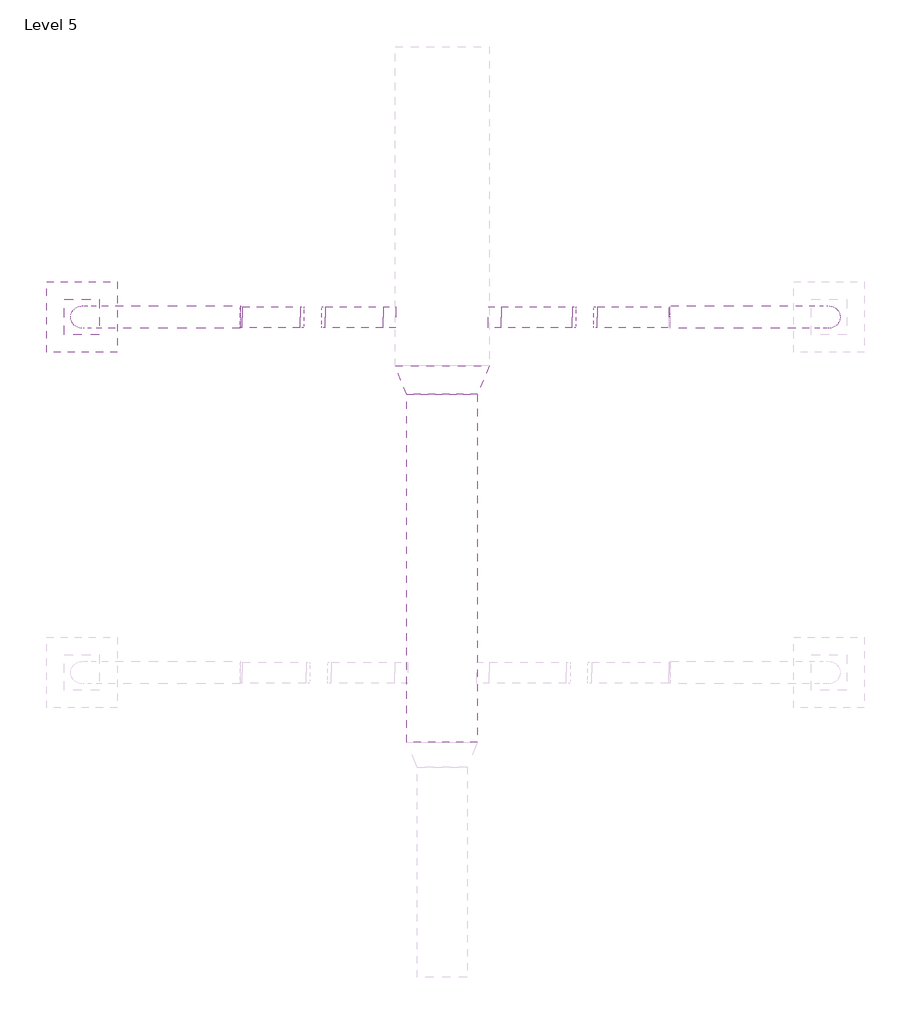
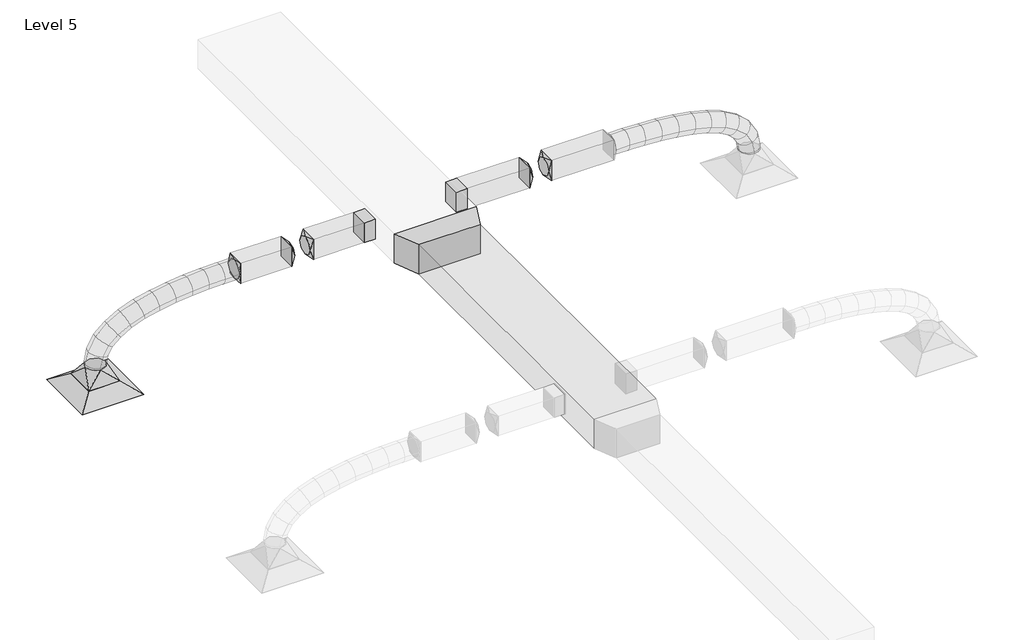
# One storey, part 4 of 7: 9 duct fittings, 7 duct segments, 1 air terminal.
"""IFC4 building model written with IfcOpenShell, lengths in millimetres."""

from ifc_helpers import new_model, si_unit, frame, origin, place, context, project, spatial, polyline, circle_curve, ellipse_curve, outline, extrude, transform, mapped, element, save
from ifc_brep_helpers import plane_surface, cylinder_surface, advanced_brep
from components import extract_grille_600_x_600_face_300_x_300_connection_8a0e72a1, rectangular_takeoff_standard_32a156ed, rectangular_transition_angle_45_degree_cbafa6ef, rectangular_to_round_transition_angle_45_degree_6939472c, rectangular_to_round_transition_angle_45_degree_460bb45a, rectangular_to_round_transition_angle_45_degree_ccfbbdd0

model = new_model("IFC4")

# Units and contexts
model_context = context("Model", 3, world=origin())
ifc_project = project(units=[si_unit("LENGTHUNIT", "METRE", prefix="MILLI")], contexts=[model_context])

# Site, building, storey
site = spatial("IfcSite", under=ifc_project)
building = spatial("IfcBuilding", under=site)
storey = spatial("IfcBuildingStorey", under=building, Name="Level 5", Elevation=19507.2)

# Air terminal
placement = place(None, origin())
extract_grille_600_x_600_face_300_x_300_connection_shape = extract_grille_600_x_600_face_300_x_300_connection_8a0e72a1(model_context)
element("IfcAirTerminal", 1, ObjectType="Extract Grille : 600 x 600 Face 300 x 300 Connection", at=placement, inside=storey, context=model_context, shape_type="MappedRepresentation", body=[
    mapped(extract_grille_600_x_600_face_300_x_300_connection_shape, transform((-13951.4273397, 10922.574671, 21507.2), x_axis=(1.0, 0.0, 0.0), y_axis=(0.0, 1.0, 0.0), z_axis=(0.0, 0.0, 1.0))),
])

# Duct fittings
rectangular_takeoff_standard_shape = rectangular_takeoff_standard_32a156ed(model_context)
element("IfcDuctFitting", 2, ObjectType="Rectangular Takeoff : Standard", at=placement, inside=storey, context=model_context, shape_type="MappedRepresentation", body=[
    mapped(rectangular_takeoff_standard_shape, transform((-11288.399049, 10922.574671, 22250.4), x_axis=(-1.0, 0.0, 0.0), y_axis=(0.0, -1.0, 0.0), z_axis=(0.0, 0.0, 1.0))),
])
element("IfcDuctFitting", 3, ObjectType="Rectangular Takeoff : Standard", at=placement, inside=storey, context=model_context, shape_type="MappedRepresentation", body=[
    mapped(rectangular_takeoff_standard_shape, transform((-10488.399049, 10922.574671, 22250.4), x_axis=(1.0, 0.0, 0.0), y_axis=(0.0, -1.0, 0.0), z_axis=(0.0, 0.0, -1.0))),
])
rectangular_transition_angle_45_degree_shape = rectangular_transition_angle_45_degree_cbafa6ef(model_context)
element("IfcDuctFitting", 4, ObjectType="Rectangular Transition - Angle : 45 Degree", at=placement, inside=storey, context=model_context, shape_type="MappedRepresentation", body=[
    mapped(rectangular_transition_angle_45_degree_shape, transform((-10888.399049, 10266.0044172, 22250.4), x_axis=(0.0, 1.0, 0.0), y_axis=(-1.0, 0.0, 0.0), z_axis=(0.0, 0.0, 1.0))),
])
rectangular_to_round_transition_angle_45_degree_shape = rectangular_to_round_transition_angle_45_degree_6939472c(model_context)
element("IfcDuctFitting", 5, ObjectType="Rectangular to Round Transition - Angle : 45 Degree", at=placement, inside=storey, context=model_context, shape_type="MappedRepresentation", body=[
    mapped(rectangular_to_round_transition_angle_45_degree_shape, transform((-13951.4273397, 10922.574671, 21607.2), x_axis=(0.0, 0.0, 1.0), y_axis=(-1.0, 0.0, 0.0), z_axis=(0.0, -1.0, 0.0))),
])
rectangular_to_round_transition_angle_45_degree_2_shape = rectangular_to_round_transition_angle_45_degree_460bb45a(model_context)
element("IfcDuctFitting", 6, ObjectType="Rectangular to Round Transition - Angle : 45 Degree", at=placement, inside=storey, context=model_context, shape_type="MappedRepresentation", body=[
    mapped(rectangular_to_round_transition_angle_45_degree_2_shape, transform((-12587.2796335, 10922.574671, 22250.4), x_axis=(-1.0, 0.0, 0.0), y_axis=(0.0, -1.0, 0.0), z_axis=(0.0, 0.0, 1.0))),
])
rectangular_to_round_transition_angle_45_degree_3_shape = rectangular_to_round_transition_angle_45_degree_ccfbbdd0(model_context)
element("IfcDuctFitting", 7, ObjectType="Rectangular to Round Transition - Angle : 45 Degree", at=placement, inside=storey, context=model_context, shape_type="MappedRepresentation", body=[
    mapped(rectangular_to_round_transition_angle_45_degree_3_shape, transform((-11881.778829, 10922.574671, 22250.4), x_axis=(-1.0, 0.0, 0.0), y_axis=(0.0, -1.0, 0.0), z_axis=(0.0, 0.0, 1.0))),
])
element("IfcDuctFitting", 8, ObjectType="Rectangular to Round Transition - Angle : 45 Degree", at=placement, inside=storey, context=model_context, shape_type="MappedRepresentation", body=[
    mapped(rectangular_to_round_transition_angle_45_degree_3_shape, transform((-12095.4998535, 10922.574671, 22250.4), x_axis=(1.0, 0.0, 0.0), y_axis=(0.0, 1.0, 0.0), z_axis=(0.0, 0.0, 1.0))),
])
element("IfcDuctFitting", 9, ObjectType="Rectangular to Round Transition - Angle : 45 Degree", at=placement, inside=storey, context=model_context, shape_type="MappedRepresentation", body=[
    mapped(rectangular_to_round_transition_angle_45_degree_3_shape, transform((-9782.0160617, 10922.574671, 22250.4), x_axis=(1.0, 0.0, 0.0), y_axis=(0.0, 1.0, 0.0), z_axis=(0.0, 0.0, 1.0))),
])
element("IfcDuctFitting", 10, ObjectType="Rectangular to Round Transition - Angle : 45 Degree", at=placement, inside=storey, context=model_context, shape_type="MappedRepresentation", body=[
    mapped(rectangular_to_round_transition_angle_45_degree_3_shape, transform((-9568.2950373, 10922.574671, 22250.4), x_axis=(-1.0, 0.0, 0.0), y_axis=(0.0, -1.0, 0.0), z_axis=(0.0, 0.0, 1.0))),
])

# Duct segments
element("IfcDuctSegment", 11, ObjectType="Flex - Round", at=placement, inside=storey, context=model_context, shape_type="AdvancedBrep", body=[
    advanced_brep(
    [(-13856.600673, 10922.574671, 21740.4002096), (-13951.4273397, 10827.7480044, 21740.4002096), (-14046.2540063, 10922.574671, 21740.4002096), (-13951.4273397, 11017.4013377, 21740.4002096), (-13856.600673, 10922.574671, 21747.1257674), (-13951.4273397, 10827.7480044, 21756.3980144), (-14046.2540063, 10922.574671, 21765.6702615), (-13951.4273397, 11017.4013377, 21756.3980144), (-13840.9042421, 10922.574671, 21826.6215495), (-13930.8630542, 10827.7480044, 21860.5474205), (-14020.8218663, 10922.574671, 21894.4732915), (-13930.8630542, 11017.4013377, 21860.5474205), (-13798.3595041, 10922.574671, 21899.8493536), (-13872.9403898, 10827.7480044, 21960.2436396), (-13947.5212755, 10922.574671, 22020.6379256), (-13872.9403898, 11017.4013377, 21960.2436396), (-13727.6906802, 10922.574671, 21963.8298786), (-13783.3146346, 10827.7480044, 22041.3869579), (-13838.9385891, 10922.574671, 22118.9440371), (-13783.3146346, 11017.4013377, 22041.3869579), (-13628.0298936, 10922.574671, 22019.391198), (-13667.6410769, 10827.7480044, 22105.8754664), (-13707.2522603, 10922.574671, 22192.3597348), (-13667.6410769, 11017.4013377, 22105.8754664), (-13503.9528951, 10922.574671, 22064.7410131), (-13531.5750048, 10827.7480044, 22155.6072562), (-13559.1971146, 10922.574671, 22246.4734993), (-13531.5750048, 11017.4013377, 22155.6072562), (-13361.8954964, 10922.574671, 22099.475701), (-13380.7717065, 10827.7480044, 22192.4804184), (-13399.6479166, 10922.574671, 22285.4851358), (-13380.7717065, 11017.4013377, 22192.4804184), (-13208.4245564, 10922.574671, 22124.3487604), (-13220.88647, 10827.7480044, 22218.3930438), (-13233.3483837, 10922.574671, 22312.4373273), (-13220.88647, 11017.4013377, 22218.3930438), (-13049.859091, 10922.574671, 22140.7092145), (-13057.5745837, 10827.7480044, 22235.2432237), (-13065.2900763, 10922.574671, 22329.777233), (-13057.5745837, 11017.4013377, 22235.2432237), (-12892.2772857, 10922.574671, 22150.1845004), (-12896.4913355, 10827.7480044, 22244.929049), (-12900.7053854, 10922.574671, 22339.6735976), (-12896.4913355, 11017.4013377, 22244.929049), (-12741.5676591, 10922.574671, 22154.5322383), (-12743.2920138, 10827.7480044, 22249.3486108), (-12745.0163686, 10922.574671, 22344.1649832), (-12743.2920138, 11017.4013377, 22249.3486108), (-12602.9180528, 10922.574671, 22155.5760203), (-12603.6319067, 11017.4013377, 22250.4), (-12604.3457606, 10922.574671, 22345.2239797), (-12603.6319067, 10827.7480044, 22250.4)],
    [
        (0, 1, circle_curve(frame((-13951.4273397, 10922.574671, 21740.4002096), z_axis=(0.0, 0.0, -1.0), x_axis=(1.0, 0.0, 0.0)), 94.8266667)),
        (1, 2, circle_curve(frame((-13951.4273397, 10922.574671, 21740.4002096), z_axis=(0.0, 0.0, -1.0), x_axis=(1.0, 0.0, 0.0)), 94.8266667)),
        (2, 3, circle_curve(frame((-13951.4273397, 10922.574671, 21740.4002096), z_axis=(0.0, 0.0, -1.0), x_axis=(1.0, 0.0, 0.0)), 94.8266667)),
        (3, 0, circle_curve(frame((-13951.4273397, 10922.574671, 21740.4002096), z_axis=(0.0, 0.0, -1.0), x_axis=(1.0, 0.0, 0.0)), 94.8266667)),
        (0, 4),
        (4, 5, ellipse_curve(frame((-13951.4273397, 10922.574671, 21756.3980144), z_axis=(-0.0973168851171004, 0.0, -0.9952534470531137), x_axis=(0.9952534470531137, 0.0, -0.09731688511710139)), 95.2789131, 94.8266667)),
        (5, 1),
        (5, 6, ellipse_curve(frame((-13951.4273397, 10922.574671, 21756.3980144), z_axis=(-0.0973168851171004, 0.0, -0.9952534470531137), x_axis=(0.9952534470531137, 0.0, -0.09731688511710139)), 95.2789131, 94.8266667)),
        (6, 2),
        (6, 7, ellipse_curve(frame((-13951.4273397, 10922.574671, 21756.3980144), z_axis=(-0.0973168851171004, 0.0, -0.9952534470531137), x_axis=(0.9952534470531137, 0.0, -0.09731688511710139)), 95.2789131, 94.8266667)),
        (7, 3),
        (7, 4, ellipse_curve(frame((-13951.4273397, 10922.574671, 21756.3980144), z_axis=(-0.0973168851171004, 0.0, -0.9952534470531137), x_axis=(0.9952534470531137, 0.0, -0.09731688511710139)), 95.2789131, 94.8266667)),
        (4, 8),
        (8, 9, ellipse_curve(frame((-13930.8630542, 10922.574671, 21860.5474205), z_axis=(-0.35286740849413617, 0.0, -0.9356733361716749), x_axis=(0.9356733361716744, 0.0, -0.3528674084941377)), 96.143396, 94.8266667)),
        (9, 5),
        (9, 10, ellipse_curve(frame((-13930.8630542, 10922.574671, 21860.5474205), z_axis=(-0.35286740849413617, 0.0, -0.9356733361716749), x_axis=(0.9356733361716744, 0.0, -0.3528674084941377)), 96.143396, 94.8266667)),
        (10, 6),
        (10, 11, ellipse_curve(frame((-13930.8630542, 10922.574671, 21860.5474205), z_axis=(-0.35286740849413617, 0.0, -0.9356733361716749), x_axis=(0.9356733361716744, 0.0, -0.3528674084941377)), 96.143396, 94.8266667)),
        (11, 7),
        (11, 8, ellipse_curve(frame((-13930.8630542, 10922.574671, 21860.5474205), z_axis=(-0.35286740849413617, 0.0, -0.9356733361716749), x_axis=(0.9356733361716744, 0.0, -0.3528674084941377)), 96.143396, 94.8266667)),
        (8, 12),
        (12, 13, ellipse_curve(frame((-13872.9403898, 10922.574671, 21960.2436396), z_axis=(-0.6293196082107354, 0.0, -0.7771465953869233), x_axis=(0.7771465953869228, 0.0, -0.6293196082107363)), 95.9675898, 94.8266667)),
        (13, 9),
        (13, 14, ellipse_curve(frame((-13872.9403898, 10922.574671, 21960.2436396), z_axis=(-0.6293196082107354, 0.0, -0.7771465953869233), x_axis=(0.7771465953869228, 0.0, -0.6293196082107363)), 95.9675898, 94.8266667)),
        (14, 10),
        (14, 15, ellipse_curve(frame((-13872.9403898, 10922.574671, 21960.2436396), z_axis=(-0.6293196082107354, 0.0, -0.7771465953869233), x_axis=(0.7771465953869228, 0.0, -0.6293196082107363)), 95.9675898, 94.8266667)),
        (15, 11),
        (15, 12, ellipse_curve(frame((-13872.9403898, 10922.574671, 21960.2436396), z_axis=(-0.6293196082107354, 0.0, -0.7771465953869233), x_axis=(0.7771465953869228, 0.0, -0.6293196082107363)), 95.9675898, 94.8266667)),
        (12, 16),
        (16, 17, ellipse_curve(frame((-13783.3146346, 10922.574671, 22041.3869579), z_axis=(-0.8126117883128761, 0.0, -0.5828053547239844), x_axis=(0.5828053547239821, 0.0, -0.812611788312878)), 95.4417354, 94.8266667)),
        (17, 13),
        (17, 18, ellipse_curve(frame((-13783.3146346, 10922.574671, 22041.3869579), z_axis=(-0.8126117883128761, 0.0, -0.5828053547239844), x_axis=(0.5828053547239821, 0.0, -0.812611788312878)), 95.4417354, 94.8266667)),
        (18, 14),
        (18, 19, ellipse_curve(frame((-13783.3146346, 10922.574671, 22041.3869579), z_axis=(-0.8126117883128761, 0.0, -0.5828053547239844), x_axis=(0.5828053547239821, 0.0, -0.812611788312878)), 95.4417354, 94.8266667)),
        (19, 15),
        (19, 16, ellipse_curve(frame((-13783.3146346, 10922.574671, 22041.3869579), z_axis=(-0.8126117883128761, 0.0, -0.5828053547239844), x_axis=(0.5828053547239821, 0.0, -0.812611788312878)), 95.4417354, 94.8266667)),
        (16, 20),
        (20, 21, ellipse_curve(frame((-13667.6410769, 10922.574671, 22105.8754664), z_axis=(-0.909174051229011, 0.0, -0.4164163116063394), x_axis=(0.41641631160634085, 0.0, -0.9091740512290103)), 95.1239955, 94.8266667)),
        (21, 17),
        (21, 22, ellipse_curve(frame((-13667.6410769, 10922.574671, 22105.8754664), z_axis=(-0.909174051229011, 0.0, -0.4164163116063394), x_axis=(0.41641631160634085, 0.0, -0.9091740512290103)), 95.1239955, 94.8266667)),
        (22, 18),
        (22, 23, ellipse_curve(frame((-13667.6410769, 10922.574671, 22105.8754664), z_axis=(-0.909174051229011, 0.0, -0.4164163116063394), x_axis=(0.41641631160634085, 0.0, -0.9091740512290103)), 95.1239955, 94.8266667)),
        (23, 19),
        (23, 20, ellipse_curve(frame((-13667.6410769, 10922.574671, 22105.8754664), z_axis=(-0.909174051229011, 0.0, -0.4164163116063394), x_axis=(0.41641631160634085, 0.0, -0.9091740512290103)), 95.1239955, 94.8266667)),
        (20, 24),
        (24, 25, ellipse_curve(frame((-13531.5750048, 10922.574671, 22155.6072562), z_axis=(-0.9567701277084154, 0.0, -0.29084518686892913), x_axis=(0.29084518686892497, 0.0, -0.9567701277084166)), 94.9718647, 94.8266667)),
        (25, 21),
        (25, 26, ellipse_curve(frame((-13531.5750048, 10922.574671, 22155.6072562), z_axis=(-0.9567701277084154, 0.0, -0.29084518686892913), x_axis=(0.29084518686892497, 0.0, -0.9567701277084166)), 94.9718647, 94.8266667)),
        (26, 22),
        (26, 27, ellipse_curve(frame((-13531.5750048, 10922.574671, 22155.6072562), z_axis=(-0.9567701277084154, 0.0, -0.29084518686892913), x_axis=(0.29084518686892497, 0.0, -0.9567701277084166)), 94.9718647, 94.8266667)),
        (27, 23),
        (27, 24, ellipse_curve(frame((-13531.5750048, 10922.574671, 22155.6072562), z_axis=(-0.9567701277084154, 0.0, -0.29084518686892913), x_axis=(0.29084518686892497, 0.0, -0.9567701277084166)), 94.9718647, 94.8266667)),
        (24, 28),
        (28, 29, ellipse_curve(frame((-13380.7717065, 10922.574671, 22192.4804184), z_axis=(-0.9800189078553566, 0.0, -0.19890434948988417), x_axis=(0.1989043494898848, 0.0, -0.9800189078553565)), 94.9009419, 94.8266667)),
        (29, 25),
        (29, 30, ellipse_curve(frame((-13380.7717065, 10922.574671, 22192.4804184), z_axis=(-0.9800189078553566, 0.0, -0.19890434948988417), x_axis=(0.1989043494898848, 0.0, -0.9800189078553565)), 94.9009419, 94.8266667)),
        (30, 26),
        (30, 31, ellipse_curve(frame((-13380.7717065, 10922.574671, 22192.4804184), z_axis=(-0.9800189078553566, 0.0, -0.19890434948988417), x_axis=(0.1989043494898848, 0.0, -0.9800189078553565)), 94.9009419, 94.8266667)),
        (31, 27),
        (31, 28, ellipse_curve(frame((-13380.7717065, 10922.574671, 22192.4804184), z_axis=(-0.9800189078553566, 0.0, -0.19890434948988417), x_axis=(0.1989043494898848, 0.0, -0.9800189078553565)), 94.9009419, 94.8266667)),
        (28, 32),
        (32, 33, ellipse_curve(frame((-13220.88647, 10922.574671, 22218.3930438), z_axis=(-0.9913343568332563, 0.0, -0.1313628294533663), x_axis=(0.13136282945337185, 0.0, -0.9913343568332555)), 94.8663615, 94.8266667)),
        (33, 29),
        (33, 34, ellipse_curve(frame((-13220.88647, 10922.574671, 22218.3930438), z_axis=(-0.9913343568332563, 0.0, -0.1313628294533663), x_axis=(0.13136282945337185, 0.0, -0.9913343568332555)), 94.8663615, 94.8266667)),
        (34, 30),
        (34, 35, ellipse_curve(frame((-13220.88647, 10922.574671, 22218.3930438), z_axis=(-0.9913343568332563, 0.0, -0.1313628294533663), x_axis=(0.13136282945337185, 0.0, -0.9913343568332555)), 94.8663615, 94.8266667)),
        (35, 31),
        (35, 32, ellipse_curve(frame((-13220.88647, 10922.574671, 22218.3930438), z_axis=(-0.9913343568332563, 0.0, -0.1313628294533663), x_axis=(0.13136282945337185, 0.0, -0.9913343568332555)), 94.8663615, 94.8266667)),
        (32, 36),
        (36, 37, ellipse_curve(frame((-13057.5745837, 10922.574671, 22235.2432237), z_axis=(-0.9966859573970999, 0.0, -0.08134557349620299), x_axis=(0.08134557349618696, 0.0, -0.9966859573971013)), 94.8483407, 94.8266667)),
        (37, 33),
        (37, 38, ellipse_curve(frame((-13057.5745837, 10922.574671, 22235.2432237), z_axis=(-0.9966859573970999, 0.0, -0.08134557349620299), x_axis=(0.08134557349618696, 0.0, -0.9966859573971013)), 94.8483407, 94.8266667)),
        (38, 34),
        (38, 39, ellipse_curve(frame((-13057.5745837, 10922.574671, 22235.2432237), z_axis=(-0.9966859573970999, 0.0, -0.08134557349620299), x_axis=(0.08134557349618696, 0.0, -0.9966859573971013)), 94.8483407, 94.8266667)),
        (39, 35),
        (39, 36, ellipse_curve(frame((-13057.5745837, 10922.574671, 22235.2432237), z_axis=(-0.9966859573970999, 0.0, -0.08134557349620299), x_axis=(0.08134557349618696, 0.0, -0.9966859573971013)), 94.8483407, 94.8266667)),
        (36, 40),
        (40, 41, ellipse_curve(frame((-12896.4913355, 10922.574671, 22244.929049), z_axis=(-0.9990123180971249, 0.0, -0.0444340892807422), x_axis=(0.0444340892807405, 0.0, -0.999012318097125)), 94.8382186, 94.8266667)),
        (41, 37),
        (41, 42, ellipse_curve(frame((-12896.4913355, 10922.574671, 22244.929049), z_axis=(-0.9990123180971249, 0.0, -0.0444340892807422), x_axis=(0.0444340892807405, 0.0, -0.999012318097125)), 94.8382186, 94.8266667)),
        (42, 38),
        (42, 43, ellipse_curve(frame((-12896.4913355, 10922.574671, 22244.929049), z_axis=(-0.9990123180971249, 0.0, -0.0444340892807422), x_axis=(0.0444340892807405, 0.0, -0.999012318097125)), 94.8382186, 94.8266667)),
        (43, 39),
        (43, 40, ellipse_curve(frame((-12896.4913355, 10922.574671, 22244.929049), z_axis=(-0.9990123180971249, 0.0, -0.0444340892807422), x_axis=(0.0444340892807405, 0.0, -0.999012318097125)), 94.8382186, 94.8266667)),
        (40, 44),
        (44, 45, ellipse_curve(frame((-12743.2920138, 10922.574671, 22249.3486108), z_axis=(-0.9998346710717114, 0.0, -0.01818324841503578), x_axis=(0.01818324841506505, 0.0, -0.9998346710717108)), 94.8320509, 94.8266667)),
        (45, 41),
        (45, 46, ellipse_curve(frame((-12743.2920138, 10922.574671, 22249.3486108), z_axis=(-0.9998346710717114, 0.0, -0.01818324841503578), x_axis=(0.01818324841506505, 0.0, -0.9998346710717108)), 94.8320509, 94.8266667)),
        (46, 42),
        (46, 47, ellipse_curve(frame((-12743.2920138, 10922.574671, 22249.3486108), z_axis=(-0.9998346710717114, 0.0, -0.01818324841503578), x_axis=(0.01818324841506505, 0.0, -0.9998346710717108)), 94.8320509, 94.8266667)),
        (47, 43),
        (47, 44, ellipse_curve(frame((-12743.2920138, 10922.574671, 22249.3486108), z_axis=(-0.9998346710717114, 0.0, -0.01818324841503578), x_axis=(0.01818324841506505, 0.0, -0.9998346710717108)), 94.8320509, 94.8266667)),
        (48, 49, circle_curve(frame((-12603.6319067, 10922.574671, 22250.4), z_axis=(0.9999716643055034, 0.0, 0.007527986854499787), x_axis=(0.007527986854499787, 0.0, -0.9999716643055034)), 94.8266667)),
        (49, 50, circle_curve(frame((-12603.6319067, 10922.574671, 22250.4), z_axis=(0.9999716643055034, 0.0, 0.007527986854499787), x_axis=(0.007527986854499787, 0.0, -0.9999716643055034)), 94.8266667)),
        (50, 51, circle_curve(frame((-12603.6319067, 10922.574671, 22250.4), z_axis=(0.9999716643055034, 0.0, 0.007527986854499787), x_axis=(0.007527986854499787, 0.0, -0.9999716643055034)), 94.8266667)),
        (51, 48, circle_curve(frame((-12603.6319067, 10922.574671, 22250.4), z_axis=(0.9999716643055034, 0.0, 0.007527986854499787), x_axis=(0.007527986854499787, 0.0, -0.9999716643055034)), 94.8266667)),
        (44, 48),
        (51, 45),
        (50, 46),
        (49, 47),
    ],
    [
        plane_surface(frame((-13951.4273397, 10827.7480044, 21740.4002096), z_axis=(0.0, 0.0, -1.0), x_axis=(1.0, 0.0, 0.0))),
        cylinder_surface(frame((-13951.4273397, 10922.574671, 21740.4002096), z_axis=(0.0, 0.0, -1.0), x_axis=(1.0, 0.0, 0.0)), 94.8266667),
        cylinder_surface(frame((-13951.4273397, 10922.574671, 21756.3980144), z_axis=(-0.1937099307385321, 0.0, -0.9810588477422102), x_axis=(0.9810588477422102, 0.0, -0.1937099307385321)), 94.8266667),
        cylinder_surface(frame((-13930.8630542, 10922.574671, 21860.5474205), z_axis=(-0.5023595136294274, 0.0, -0.8646588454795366), x_axis=(0.8646588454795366, 0.0, -0.5023595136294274)), 94.8266667),
        cylinder_surface(frame((-13872.9403898, 10922.574671, 21960.2436396), z_axis=(-0.7413162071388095, 0.0, -0.6711559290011), x_axis=(0.6711559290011, 0.0, -0.7413162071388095)), 94.8266667),
        cylinder_surface(frame((-13783.3146346, 10922.574671, 22041.3869579), z_axis=(-0.8734337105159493, 0.0, -0.4869430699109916), x_axis=(0.4869430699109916, 0.0, -0.8734337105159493)), 94.8266667),
        cylinder_surface(frame((-13667.6410769, 10922.574671, 22105.8754664), z_axis=(-0.9392307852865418, 0.0, -0.3432863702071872), x_axis=(0.3432863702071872, 0.0, -0.9392307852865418)), 94.8266667),
        cylinder_surface(frame((-13531.5750048, 10922.574671, 22155.6072562), z_axis=(-0.9713839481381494, 0.0, -0.23751468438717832), x_axis=(0.23751468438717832, 0.0, -0.9713839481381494)), 94.8266667),
        cylinder_surface(frame((-13380.7717065, 10922.574671, 22192.4804184), z_axis=(-0.9871198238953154, 0.0, -0.1599826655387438), x_axis=(0.1599826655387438, 0.0, -0.9871198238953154)), 94.8266667),
        cylinder_surface(frame((-13220.88647, 10922.574671, 22218.3930438), z_axis=(-0.9947192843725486, 0.0, -0.1026330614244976), x_axis=(0.1026330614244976, 0.0, -0.9947192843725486)), 94.8266667),
        cylinder_surface(frame((-13057.5745837, 10922.574671, 22235.2432237), z_axis=(-0.9981971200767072, 0.0, -0.06002090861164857), x_axis=(0.06002090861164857, 0.0, -0.9981971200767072)), 94.8266667),
        cylinder_surface(frame((-12896.4913355, 10922.574671, 22244.929049), z_axis=(-0.9995841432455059, 0.0, -0.028836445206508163), x_axis=(0.028836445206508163, 0.0, -0.9995841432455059)), 94.8266667),
        plane_surface(frame((-12603.6319067, 10827.7480044, 22250.4), z_axis=(0.9999716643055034, 0.0, 0.007527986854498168), x_axis=(0.007527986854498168, 0.0, -0.9999716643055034))),
        cylinder_surface(frame((-12743.2920138, 10922.574671, 22249.3486108), z_axis=(-0.9999716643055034, 0.0, -0.007527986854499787), x_axis=(0.007527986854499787, 0.0, -0.9999716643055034)), 94.8266667),
    ],
    [
        (0, [[1, 2, 3, 4]]),
        (1, [[-1, 5, 6, 7]]),
        (1, [[-2, -7, 8, 9]]),
        (1, [[-3, -9, 10, 11]]),
        (1, [[-4, -11, 12, -5]]),
        (2, [[-6, 13, 14, 15]]),
        (2, [[-8, -15, 16, 17]]),
        (2, [[-10, -17, 18, 19]]),
        (2, [[-12, -19, 20, -13]]),
        (3, [[-14, 21, 22, 23]]),
        (3, [[-16, -23, 24, 25]]),
        (3, [[-18, -25, 26, 27]]),
        (3, [[-20, -27, 28, -21]]),
        (4, [[-22, 29, 30, 31]]),
        (4, [[-24, -31, 32, 33]]),
        (4, [[-26, -33, 34, 35]]),
        (4, [[-28, -35, 36, -29]]),
        (5, [[-30, 37, 38, 39]]),
        (5, [[-32, -39, 40, 41]]),
        (5, [[-34, -41, 42, 43]]),
        (5, [[-36, -43, 44, -37]]),
        (6, [[-38, 45, 46, 47]]),
        (6, [[-40, -47, 48, 49]]),
        (6, [[-42, -49, 50, 51]]),
        (6, [[-44, -51, 52, -45]]),
        (7, [[-46, 53, 54, 55]]),
        (7, [[-48, -55, 56, 57]]),
        (7, [[-50, -57, 58, 59]]),
        (7, [[-52, -59, 60, -53]]),
        (8, [[-54, 61, 62, 63]]),
        (8, [[-56, -63, 64, 65]]),
        (8, [[-58, -65, 66, 67]]),
        (8, [[-60, -67, 68, -61]]),
        (9, [[-62, 69, 70, 71]]),
        (9, [[-64, -71, 72, 73]]),
        (9, [[-66, -73, 74, 75]]),
        (9, [[-68, -75, 76, -69]]),
        (10, [[-70, 77, 78, 79]]),
        (10, [[-72, -79, 80, 81]]),
        (10, [[-74, -81, 82, 83]]),
        (10, [[-76, -83, 84, -77]]),
        (11, [[-78, 85, 86, 87]]),
        (11, [[-80, -87, 88, 89]]),
        (11, [[-82, -89, 90, 91]]),
        (11, [[-84, -91, 92, -85]]),
        (12, [[93, 94, 95, 96]]),
        (13, [[-86, 97, -96, 98]]),
        (13, [[-88, -98, -95, 99]]),
        (13, [[-90, -99, -94, 100]]),
        (13, [[-92, -100, -93, -97]]),
    ],
),
])
element("IfcDuctSegment", 12, ObjectType="Flex - Round", at=placement, inside=storey, context=model_context, shape_type="AdvancedBrep", body=[
    advanced_brep(
    [(-7504.5376771, 10922.574671, 21740.4002096), (-7599.3643438, 10827.7480044, 21740.4002096), (-7694.1910105, 10922.574671, 21740.4002096), (-7599.3643438, 11017.4013377, 21740.4002096), (-7504.5376771, 10922.574671, 21765.6702615), (-7599.3643438, 10827.7480044, 21756.3980144), (-7694.1910105, 10922.574671, 21747.1257674), (-7599.3643438, 11017.4013377, 21756.3980144), (-7529.9698172, 10922.574671, 21894.4732915), (-7619.9286293, 10827.7480044, 21860.5474205), (-7709.8874414, 10922.574671, 21826.6215495), (-7619.9286293, 11017.4013377, 21860.5474205), (-7603.270408, 10922.574671, 22020.6379256), (-7677.8512937, 10827.7480044, 21960.2436396), (-7752.4321794, 10922.574671, 21899.8493536), (-7677.8512937, 11017.4013377, 21960.2436396), (-7711.8530944, 10922.574671, 22118.9440371), (-7767.4770488, 10827.7480044, 22041.3869579), (-7823.1010033, 10922.574671, 21963.8298786), (-7767.4770488, 11017.4013377, 22041.3869579), (-7843.5394232, 10922.574671, 22192.3597348), (-7883.1506065, 10827.7480044, 22105.8754664), (-7922.7617899, 10922.574671, 22019.391198), (-7883.1506065, 11017.4013377, 22105.8754664), (-7991.5945689, 10922.574671, 22246.4734993), (-8019.2166786, 10827.7480044, 22155.6072562), (-8046.8387884, 10922.574671, 22064.7410131), (-8019.2166786, 11017.4013377, 22155.6072562), (-8151.1437669, 10922.574671, 22285.4851358), (-8170.019977, 10827.7480044, 22192.4804184), (-8188.8961871, 10922.574671, 22099.475701), (-8170.019977, 11017.4013377, 22192.4804184), (-8317.4432998, 10922.574671, 22312.4373273), (-8329.9052134, 10827.7480044, 22218.3930438), (-8342.3671271, 10922.574671, 22124.3487604), (-8329.9052134, 11017.4013377, 22218.3930438), (-8485.5016071, 10922.574671, 22329.777233), (-8493.2170998, 10827.7480044, 22235.2432237), (-8500.9325925, 10922.574671, 22140.7092145), (-8493.2170998, 11017.4013377, 22235.2432237), (-8650.086298, 10922.574671, 22339.6735976), (-8654.3003479, 10827.7480044, 22244.929049), (-8658.5143978, 10922.574671, 22150.1845004), (-8654.3003479, 11017.4013377, 22244.929049), (-8805.7753149, 10922.574671, 22344.1649832), (-8807.4996696, 10827.7480044, 22249.3486108), (-8809.2240244, 10922.574671, 22154.5322383), (-8807.4996696, 11017.4013377, 22249.3486108), (-8946.4459229, 10922.574671, 22345.2239797), (-8947.1597768, 10827.7480044, 22250.4), (-8947.8736307, 10922.574671, 22155.5760203), (-8947.1597768, 11017.4013377, 22250.4)],
    [
        (0, 1, circle_curve(frame((-7599.3643438, 10922.574671, 21740.4002096), z_axis=(0.0, 0.0, -1.0), x_axis=(1.0, 0.0, 0.0)), 94.8266667)),
        (1, 2, circle_curve(frame((-7599.3643438, 10922.574671, 21740.4002096), z_axis=(0.0, 0.0, -1.0), x_axis=(1.0, 0.0, 0.0)), 94.8266667)),
        (2, 3, circle_curve(frame((-7599.3643438, 10922.574671, 21740.4002096), z_axis=(0.0, 0.0, -1.0), x_axis=(1.0, 0.0, 0.0)), 94.8266667)),
        (3, 0, circle_curve(frame((-7599.3643438, 10922.574671, 21740.4002096), z_axis=(0.0, 0.0, -1.0), x_axis=(1.0, 0.0, 0.0)), 94.8266667)),
        (0, 4),
        (4, 5, ellipse_curve(frame((-7599.3643438, 10922.574671, 21756.3980144), z_axis=(0.09731688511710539, 0.0, -0.9952534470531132), x_axis=(-0.9952534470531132, 0.0, -0.09731688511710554)), 95.2789131, 94.8266667)),
        (5, 1),
        (5, 6, ellipse_curve(frame((-7599.3643438, 10922.574671, 21756.3980144), z_axis=(0.09731688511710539, 0.0, -0.9952534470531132), x_axis=(-0.9952534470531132, 0.0, -0.09731688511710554)), 95.2789131, 94.8266667)),
        (6, 2),
        (6, 7, ellipse_curve(frame((-7599.3643438, 10922.574671, 21756.3980144), z_axis=(0.09731688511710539, 0.0, -0.9952534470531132), x_axis=(-0.9952534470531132, 0.0, -0.09731688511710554)), 95.2789131, 94.8266667)),
        (7, 3),
        (7, 4, ellipse_curve(frame((-7599.3643438, 10922.574671, 21756.3980144), z_axis=(0.09731688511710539, 0.0, -0.9952534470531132), x_axis=(-0.9952534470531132, 0.0, -0.09731688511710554)), 95.2789131, 94.8266667)),
        (4, 8),
        (8, 9, ellipse_curve(frame((-7619.9286293, 10922.574671, 21860.5474205), z_axis=(0.3528674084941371, 0.0, -0.9356733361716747), x_axis=(-0.9356733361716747, 0.0, -0.3528674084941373)), 96.143396, 94.8266667)),
        (9, 5),
        (9, 10, ellipse_curve(frame((-7619.9286293, 10922.574671, 21860.5474205), z_axis=(0.3528674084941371, 0.0, -0.9356733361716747), x_axis=(-0.9356733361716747, 0.0, -0.3528674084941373)), 96.143396, 94.8266667)),
        (10, 6),
        (10, 11, ellipse_curve(frame((-7619.9286293, 10922.574671, 21860.5474205), z_axis=(0.3528674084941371, 0.0, -0.9356733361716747), x_axis=(-0.9356733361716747, 0.0, -0.3528674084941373)), 96.143396, 94.8266667)),
        (11, 7),
        (11, 8, ellipse_curve(frame((-7619.9286293, 10922.574671, 21860.5474205), z_axis=(0.3528674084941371, 0.0, -0.9356733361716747), x_axis=(-0.9356733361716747, 0.0, -0.3528674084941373)), 96.143396, 94.8266667)),
        (8, 12),
        (12, 13, ellipse_curve(frame((-7677.8512937, 10922.574671, 21960.2436396), z_axis=(0.6293196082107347, 0.0, -0.777146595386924), x_axis=(-0.7771465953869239, 0.0, -0.6293196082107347)), 95.9675898, 94.8266667)),
        (13, 9),
        (13, 14, ellipse_curve(frame((-7677.8512937, 10922.574671, 21960.2436396), z_axis=(0.6293196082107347, 0.0, -0.777146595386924), x_axis=(-0.7771465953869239, 0.0, -0.6293196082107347)), 95.9675898, 94.8266667)),
        (14, 10),
        (14, 15, ellipse_curve(frame((-7677.8512937, 10922.574671, 21960.2436396), z_axis=(0.6293196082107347, 0.0, -0.777146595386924), x_axis=(-0.7771465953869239, 0.0, -0.6293196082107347)), 95.9675898, 94.8266667)),
        (15, 11),
        (15, 12, ellipse_curve(frame((-7677.8512937, 10922.574671, 21960.2436396), z_axis=(0.6293196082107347, 0.0, -0.777146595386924), x_axis=(-0.7771465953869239, 0.0, -0.6293196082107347)), 95.9675898, 94.8266667)),
        (12, 16),
        (16, 17, ellipse_curve(frame((-7767.4770488, 10922.574671, 22041.3869579), z_axis=(0.8126117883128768, 0.0, -0.5828053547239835), x_axis=(-0.5828053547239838, 0.0, -0.8126117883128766)), 95.4417354, 94.8266667)),
        (17, 13),
        (17, 18, ellipse_curve(frame((-7767.4770488, 10922.574671, 22041.3869579), z_axis=(0.8126117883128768, 0.0, -0.5828053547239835), x_axis=(-0.5828053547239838, 0.0, -0.8126117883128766)), 95.4417354, 94.8266667)),
        (18, 14),
        (18, 19, ellipse_curve(frame((-7767.4770488, 10922.574671, 22041.3869579), z_axis=(0.8126117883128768, 0.0, -0.5828053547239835), x_axis=(-0.5828053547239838, 0.0, -0.8126117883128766)), 95.4417354, 94.8266667)),
        (19, 15),
        (19, 16, ellipse_curve(frame((-7767.4770488, 10922.574671, 22041.3869579), z_axis=(0.8126117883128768, 0.0, -0.5828053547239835), x_axis=(-0.5828053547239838, 0.0, -0.8126117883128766)), 95.4417354, 94.8266667)),
        (16, 20),
        (20, 21, ellipse_curve(frame((-7883.1506065, 10922.574671, 22105.8754664), z_axis=(0.9091740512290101, 0.0, -0.4164163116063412), x_axis=(-0.41641631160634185, 0.0, -0.9091740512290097)), 95.1239955, 94.8266667)),
        (21, 17),
        (21, 22, ellipse_curve(frame((-7883.1506065, 10922.574671, 22105.8754664), z_axis=(0.9091740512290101, 0.0, -0.4164163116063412), x_axis=(-0.41641631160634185, 0.0, -0.9091740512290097)), 95.1239955, 94.8266667)),
        (22, 18),
        (22, 23, ellipse_curve(frame((-7883.1506065, 10922.574671, 22105.8754664), z_axis=(0.9091740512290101, 0.0, -0.4164163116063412), x_axis=(-0.41641631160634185, 0.0, -0.9091740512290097)), 95.1239955, 94.8266667)),
        (23, 19),
        (23, 20, ellipse_curve(frame((-7883.1506065, 10922.574671, 22105.8754664), z_axis=(0.9091740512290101, 0.0, -0.4164163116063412), x_axis=(-0.41641631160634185, 0.0, -0.9091740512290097)), 95.1239955, 94.8266667)),
        (20, 24),
        (24, 25, ellipse_curve(frame((-8019.2166786, 10922.574671, 22155.6072562), z_axis=(0.9567701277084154, 0.0, -0.29084518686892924), x_axis=(-0.2908451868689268, 0.0, -0.9567701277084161)), 94.9718647, 94.8266667)),
        (25, 21),
        (25, 26, ellipse_curve(frame((-8019.2166786, 10922.574671, 22155.6072562), z_axis=(0.9567701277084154, 0.0, -0.29084518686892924), x_axis=(-0.2908451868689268, 0.0, -0.9567701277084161)), 94.9718647, 94.8266667)),
        (26, 22),
        (26, 27, ellipse_curve(frame((-8019.2166786, 10922.574671, 22155.6072562), z_axis=(0.9567701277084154, 0.0, -0.29084518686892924), x_axis=(-0.2908451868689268, 0.0, -0.9567701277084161)), 94.9718647, 94.8266667)),
        (27, 23),
        (27, 24, ellipse_curve(frame((-8019.2166786, 10922.574671, 22155.6072562), z_axis=(0.9567701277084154, 0.0, -0.29084518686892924), x_axis=(-0.2908451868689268, 0.0, -0.9567701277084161)), 94.9718647, 94.8266667)),
        (24, 28),
        (28, 29, ellipse_curve(frame((-8170.019977, 10922.574671, 22192.4804184), z_axis=(0.9800189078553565, 0.0, -0.1989043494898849), x_axis=(-0.19890434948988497, 0.0, -0.9800189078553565)), 94.9009419, 94.8266667)),
        (29, 25),
        (29, 30, ellipse_curve(frame((-8170.019977, 10922.574671, 22192.4804184), z_axis=(0.9800189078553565, 0.0, -0.1989043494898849), x_axis=(-0.19890434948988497, 0.0, -0.9800189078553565)), 94.9009419, 94.8266667)),
        (30, 26),
        (30, 31, ellipse_curve(frame((-8170.019977, 10922.574671, 22192.4804184), z_axis=(0.9800189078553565, 0.0, -0.1989043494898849), x_axis=(-0.19890434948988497, 0.0, -0.9800189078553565)), 94.9009419, 94.8266667)),
        (31, 27),
        (31, 28, ellipse_curve(frame((-8170.019977, 10922.574671, 22192.4804184), z_axis=(0.9800189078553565, 0.0, -0.1989043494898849), x_axis=(-0.19890434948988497, 0.0, -0.9800189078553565)), 94.9009419, 94.8266667)),
        (28, 32),
        (32, 33, ellipse_curve(frame((-8329.9052134, 10922.574671, 22218.3930438), z_axis=(0.9913343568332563, 0.0, -0.13136282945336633), x_axis=(-0.13136282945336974, 0.0, -0.9913343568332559)), 94.8663615, 94.8266667)),
        (33, 29),
        (33, 34, ellipse_curve(frame((-8329.9052134, 10922.574671, 22218.3930438), z_axis=(0.9913343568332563, 0.0, -0.13136282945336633), x_axis=(-0.13136282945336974, 0.0, -0.9913343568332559)), 94.8663615, 94.8266667)),
        (34, 30),
        (34, 35, ellipse_curve(frame((-8329.9052134, 10922.574671, 22218.3930438), z_axis=(0.9913343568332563, 0.0, -0.13136282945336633), x_axis=(-0.13136282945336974, 0.0, -0.9913343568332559)), 94.8663615, 94.8266667)),
        (35, 31),
        (35, 32, ellipse_curve(frame((-8329.9052134, 10922.574671, 22218.3930438), z_axis=(0.9913343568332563, 0.0, -0.13136282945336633), x_axis=(-0.13136282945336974, 0.0, -0.9913343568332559)), 94.8663615, 94.8266667)),
        (32, 36),
        (36, 37, ellipse_curve(frame((-8493.2170998, 10922.574671, 22235.2432237), z_axis=(0.9966859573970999, 0.0, -0.08134557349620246), x_axis=(-0.08134557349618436, 0.0, -0.9966859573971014)), 94.8483407, 94.8266667)),
        (37, 33),
        (37, 38, ellipse_curve(frame((-8493.2170998, 10922.574671, 22235.2432237), z_axis=(0.9966859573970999, 0.0, -0.08134557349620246), x_axis=(-0.08134557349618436, 0.0, -0.9966859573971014)), 94.8483407, 94.8266667)),
        (38, 34),
        (38, 39, ellipse_curve(frame((-8493.2170998, 10922.574671, 22235.2432237), z_axis=(0.9966859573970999, 0.0, -0.08134557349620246), x_axis=(-0.08134557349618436, 0.0, -0.9966859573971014)), 94.8483407, 94.8266667)),
        (39, 35),
        (39, 36, ellipse_curve(frame((-8493.2170998, 10922.574671, 22235.2432237), z_axis=(0.9966859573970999, 0.0, -0.08134557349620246), x_axis=(-0.08134557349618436, 0.0, -0.9966859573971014)), 94.8483407, 94.8266667)),
        (36, 40),
        (40, 41, ellipse_curve(frame((-8654.3003479, 10922.574671, 22244.929049), z_axis=(0.9990123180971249, 0.0, -0.04443408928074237), x_axis=(-0.0444340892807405, 0.0, -0.999012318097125)), 94.8382186, 94.8266667)),
        (41, 37),
        (41, 42, ellipse_curve(frame((-8654.3003479, 10922.574671, 22244.929049), z_axis=(0.9990123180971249, 0.0, -0.04443408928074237), x_axis=(-0.0444340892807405, 0.0, -0.999012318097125)), 94.8382186, 94.8266667)),
        (42, 38),
        (42, 43, ellipse_curve(frame((-8654.3003479, 10922.574671, 22244.929049), z_axis=(0.9990123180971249, 0.0, -0.04443408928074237), x_axis=(-0.0444340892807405, 0.0, -0.999012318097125)), 94.8382186, 94.8266667)),
        (43, 39),
        (43, 40, ellipse_curve(frame((-8654.3003479, 10922.574671, 22244.929049), z_axis=(0.9990123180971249, 0.0, -0.04443408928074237), x_axis=(-0.0444340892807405, 0.0, -0.999012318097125)), 94.8382186, 94.8266667)),
        (40, 44),
        (44, 45, ellipse_curve(frame((-8807.4996696, 10922.574671, 22249.3486108), z_axis=(0.9998346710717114, 0.0, -0.018183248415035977), x_axis=(-0.018183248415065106, 0.0, -0.9998346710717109)), 94.8320509, 94.8266667)),
        (45, 41),
        (45, 46, ellipse_curve(frame((-8807.4996696, 10922.574671, 22249.3486108), z_axis=(0.9998346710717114, 0.0, -0.018183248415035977), x_axis=(-0.018183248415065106, 0.0, -0.9998346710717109)), 94.8320509, 94.8266667)),
        (46, 42),
        (46, 47, ellipse_curve(frame((-8807.4996696, 10922.574671, 22249.3486108), z_axis=(0.9998346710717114, 0.0, -0.018183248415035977), x_axis=(-0.018183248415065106, 0.0, -0.9998346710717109)), 94.8320509, 94.8266667)),
        (47, 43),
        (47, 44, ellipse_curve(frame((-8807.4996696, 10922.574671, 22249.3486108), z_axis=(0.9998346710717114, 0.0, -0.018183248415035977), x_axis=(-0.018183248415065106, 0.0, -0.9998346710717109)), 94.8320509, 94.8266667)),
        (44, 48),
        (48, 49, circle_curve(frame((-8947.1597768, 10922.574671, 22250.4), z_axis=(0.9999716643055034, 0.0, -0.007527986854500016), x_axis=(0.007527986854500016, 0.0, 0.9999716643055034)), 94.8266667)),
        (49, 45),
        (49, 50, circle_curve(frame((-8947.1597768, 10922.574671, 22250.4), z_axis=(0.9999716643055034, 0.0, -0.007527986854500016), x_axis=(0.007527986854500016, 0.0, 0.9999716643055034)), 94.8266667)),
        (50, 46),
        (50, 51, circle_curve(frame((-8947.1597768, 10922.574671, 22250.4), z_axis=(0.9999716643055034, 0.0, -0.007527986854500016), x_axis=(0.007527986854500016, 0.0, 0.9999716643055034)), 94.8266667)),
        (51, 47),
        (51, 48, circle_curve(frame((-8947.1597768, 10922.574671, 22250.4), z_axis=(0.9999716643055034, 0.0, -0.007527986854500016), x_axis=(0.007527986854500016, 0.0, 0.9999716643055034)), 94.8266667)),
    ],
    [
        plane_surface(frame((-7599.3643438, 10827.7480044, 21740.4002096), z_axis=(0.0, 0.0, -1.0), x_axis=(1.0, 0.0, 0.0))),
        cylinder_surface(frame((-7599.3643438, 10922.574671, 21740.4002096), z_axis=(0.0, 0.0, -1.0), x_axis=(1.0, 0.0, 0.0)), 94.8266667),
        cylinder_surface(frame((-7599.3643438, 10922.574671, 21756.3980144), z_axis=(0.1937099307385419, 0.0, -0.9810588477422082), x_axis=(0.9810588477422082, 0.0, 0.1937099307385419)), 94.8266667),
        cylinder_surface(frame((-7619.9286293, 10922.574671, 21860.5474205), z_axis=(0.5023595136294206, 0.0, -0.8646588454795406), x_axis=(0.8646588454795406, 0.0, 0.5023595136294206)), 94.8266667),
        cylinder_surface(frame((-7677.8512937, 10922.574671, 21960.2436396), z_axis=(0.7413162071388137, 0.0, -0.6711559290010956), x_axis=(0.6711559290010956, 0.0, 0.7413162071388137)), 94.8266667),
        cylinder_surface(frame((-7767.4770488, 10922.574671, 22041.3869579), z_axis=(0.8734337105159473, 0.0, -0.486943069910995), x_axis=(0.486943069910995, 0.0, 0.8734337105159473)), 94.8266667),
        cylinder_surface(frame((-7883.1506065, 10922.574671, 22105.8754664), z_axis=(0.9392307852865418, 0.0, -0.3432863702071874), x_axis=(0.3432863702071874, 0.0, 0.9392307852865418)), 94.8266667),
        cylinder_surface(frame((-8019.2166786, 10922.574671, 22155.6072562), z_axis=(0.9713839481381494, 0.0, -0.2375146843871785), x_axis=(0.2375146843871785, 0.0, 0.9713839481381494)), 94.8266667),
        cylinder_surface(frame((-8170.019977, 10922.574671, 22192.4804184), z_axis=(0.9871198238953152, 0.0, -0.1599826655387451), x_axis=(0.1599826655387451, 0.0, 0.9871198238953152)), 94.8266667),
        cylinder_surface(frame((-8329.9052134, 10922.574671, 22218.3930438), z_axis=(0.9947192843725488, 0.0, -0.1026330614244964), x_axis=(0.1026330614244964, 0.0, 0.9947192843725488)), 94.8266667),
        cylinder_surface(frame((-8493.2170998, 10922.574671, 22235.2432237), z_axis=(0.9981971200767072, 0.0, -0.060020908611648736), x_axis=(0.060020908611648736, 0.0, 0.9981971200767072)), 94.8266667),
        cylinder_surface(frame((-8654.3003479, 10922.574671, 22244.929049), z_axis=(0.9995841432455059, 0.0, -0.02883644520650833), x_axis=(0.02883644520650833, 0.0, 0.9995841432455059)), 94.8266667),
        cylinder_surface(frame((-8807.4996696, 10922.574671, 22249.3486108), z_axis=(0.9999716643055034, 0.0, -0.007527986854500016), x_axis=(0.007527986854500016, 0.0, 0.9999716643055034)), 94.8266667),
        plane_surface(frame((-8947.1597768, 10827.7480044, 22250.4), z_axis=(-0.9999716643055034, 0.0, 0.007527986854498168), x_axis=(0.007527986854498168, 0.0, 0.9999716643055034))),
    ],
    [
        (0, [[1, 2, 3, 4]]),
        (1, [[-1, 5, 6, 7]]),
        (1, [[-2, -7, 8, 9]]),
        (1, [[-3, -9, 10, 11]]),
        (1, [[-4, -11, 12, -5]]),
        (2, [[-6, 13, 14, 15]]),
        (2, [[-8, -15, 16, 17]]),
        (2, [[-10, -17, 18, 19]]),
        (2, [[-12, -19, 20, -13]]),
        (3, [[-14, 21, 22, 23]]),
        (3, [[-16, -23, 24, 25]]),
        (3, [[-18, -25, 26, 27]]),
        (3, [[-20, -27, 28, -21]]),
        (4, [[-22, 29, 30, 31]]),
        (4, [[-24, -31, 32, 33]]),
        (4, [[-26, -33, 34, 35]]),
        (4, [[-28, -35, 36, -29]]),
        (5, [[-30, 37, 38, 39]]),
        (5, [[-32, -39, 40, 41]]),
        (5, [[-34, -41, 42, 43]]),
        (5, [[-36, -43, 44, -37]]),
        (6, [[-38, 45, 46, 47]]),
        (6, [[-40, -47, 48, 49]]),
        (6, [[-42, -49, 50, 51]]),
        (6, [[-44, -51, 52, -45]]),
        (7, [[-46, 53, 54, 55]]),
        (7, [[-48, -55, 56, 57]]),
        (7, [[-50, -57, 58, 59]]),
        (7, [[-52, -59, 60, -53]]),
        (8, [[-54, 61, 62, 63]]),
        (8, [[-56, -63, 64, 65]]),
        (8, [[-58, -65, 66, 67]]),
        (8, [[-60, -67, 68, -61]]),
        (9, [[-62, 69, 70, 71]]),
        (9, [[-64, -71, 72, 73]]),
        (9, [[-66, -73, 74, 75]]),
        (9, [[-68, -75, 76, -69]]),
        (10, [[-70, 77, 78, 79]]),
        (10, [[-72, -79, 80, 81]]),
        (10, [[-74, -81, 82, 83]]),
        (10, [[-76, -83, 84, -77]]),
        (11, [[-78, 85, 86, 87]]),
        (11, [[-80, -87, 88, 89]]),
        (11, [[-82, -89, 90, 91]]),
        (11, [[-84, -91, 92, -85]]),
        (12, [[-86, 93, 94, 95]]),
        (12, [[-88, -95, 96, 97]]),
        (12, [[-90, -97, 98, 99]]),
        (12, [[-92, -99, 100, -93]]),
        (13, [[-100, -98, -96, -94]]),
    ],
),
])
element("IfcDuctSegment", 13, ObjectType="Radius Elbows / Taps", at=placement, inside=storey, context=model_context, shape_type="SweptSolid", body=[
    extrude(outline(polyline([(-12095.4998535, 11011.474671), (-12095.4998535, 10833.674671), (-12587.2796335, 10833.674671), (-12587.2796335, 11011.474671), (-12095.4998535, 11011.474671)])), frame((0.0, 0.0, 22148.8), z_axis=(0.0, 0.0, 1.0), x_axis=(1.0, 0.0, 0.0)), (0.0, 0.0, 1.0), 203.2),
])
element("IfcDuctSegment", 14, ObjectType="Radius Elbows / Taps", at=placement, inside=storey, context=model_context, shape_type="SweptSolid", body=[
    extrude(outline(polyline([(-9568.2950373, 10833.674671), (-9568.2950373, 11011.474671), (-8963.51205, 11011.474671), (-8963.51205, 10833.674671), (-9568.2950373, 10833.674671)])), frame((0.0, 0.0, 22148.8), z_axis=(0.0, 0.0, 1.0), x_axis=(1.0, 0.0, 0.0)), (0.0, 0.0, 1.0), 203.2),
])
element("IfcDuctSegment", 15, ObjectType="Radius Elbows / Taps", at=placement, inside=storey, context=model_context, shape_type="SweptSolid", body=[
    extrude(outline(polyline([(-11188.399049, 10266.0044172), (-10588.399049, 10266.0044172), (-10588.399049, 7308.8893378), (-11188.399049, 7308.8893378), (-11188.399049, 10266.0044172)])), frame((0.0, 0.0, 22100.4), z_axis=(0.0, 0.0, 1.0), x_axis=(1.0, 0.0, 0.0)), (0.0, 0.0, 1.0), 300.0),
])
element("IfcDuctSegment", 16, ObjectType="Radius Elbows / Taps", at=placement, inside=storey, context=model_context, shape_type="SweptSolid", body=[
    extrude(outline(polyline([(-11389.999049, 11011.474671), (-11389.999049, 10833.674671), (-11881.778829, 10833.674671), (-11881.778829, 11011.474671), (-11389.999049, 11011.474671)])), frame((0.0, 0.0, 22148.8), z_axis=(0.0, 0.0, 1.0), x_axis=(1.0, 0.0, 0.0)), (0.0, 0.0, 1.0), 203.2),
])
element("IfcDuctSegment", 17, ObjectType="Radius Elbows / Taps", at=placement, inside=storey, context=model_context, shape_type="SweptSolid", body=[
    extrude(outline(polyline([(-10386.799049, 10833.674671), (-10386.799049, 11011.474671), (-9782.0160617, 11011.474671), (-9782.0160617, 10833.674671), (-10386.799049, 10833.674671)])), frame((0.0, 0.0, 22148.8), z_axis=(0.0, 0.0, 1.0), x_axis=(1.0, 0.0, 0.0)), (0.0, 0.0, 1.0), 203.2),
])

save(model, "model.ifc")
